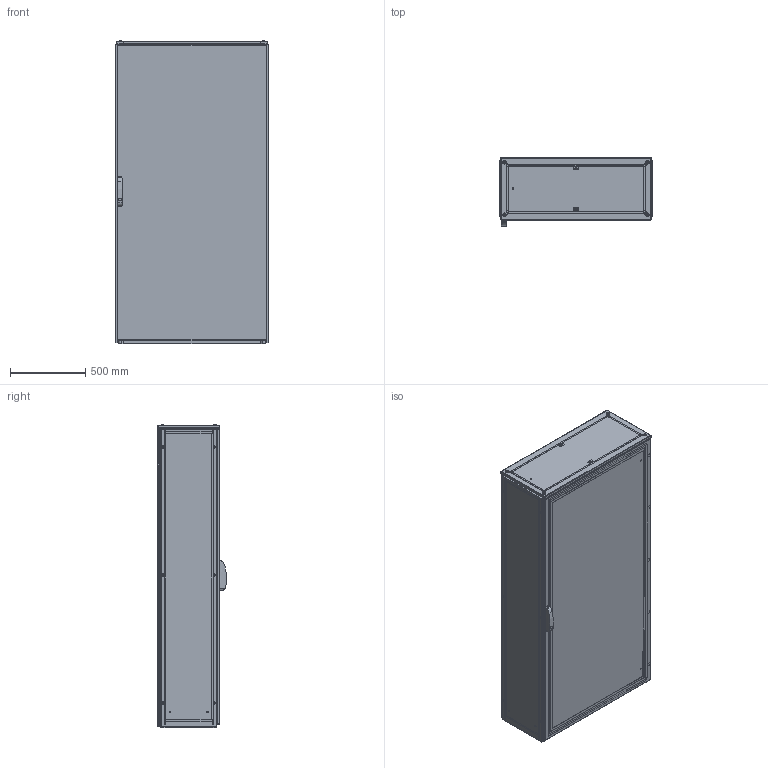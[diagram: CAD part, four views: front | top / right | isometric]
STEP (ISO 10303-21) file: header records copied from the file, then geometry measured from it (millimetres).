
FILE_DESCRIPTION(/* description */ ('STEP AP214'),/* implementation_level */ '2;1');
FILE_NAME(/* name */ 'ENUX102004PR-LOD350',/* time_stamp */ '2025-10-03T14:35:34+02:00',/* author */ ('License CC BY-ND 4.0'),/* organization */ ('CADENAS'),/* preprocessor_version */ 'ST-DEVELOPER v19.3',/* originating_system */ 'PARTsolutions',/* authorisation */ ' ');
FILE_SCHEMA (('AUTOMOTIVE_DESIGN {1 0 10303 214 3 1 1}'));
Length unit declared in the file: millimetre
Products named in the file (11): ENUX102004PR-LOD350; ENUX102004PR-LOD350_CON; ENUX102004PR-LOD350_floor1; ENUX102004PR-LOD350_floor2; Screw M12x30 architecture 350; ENUX102004PR-LOD350_side; ENUX102004PR-LOD350_top; ENUX102004PR-LOD350_back_door_r; ENUX102004PR-LOD350_back_door_l; ENUX102004PR-LOD350_door; ENUX102004PR-LOD350_handle
Assembly tree (18 placements, depth 2):
  ENUX102004PR-LOD350
    ENUX102004PR-LOD350_CON
    ENUX102004PR-LOD350_floor1  x4
    ENUX102004PR-LOD350_floor2  x2
    Screw M12x30 architecture 350  x4
    ENUX102004PR-LOD350_side  x2
    ENUX102004PR-LOD350_top
    ENUX102004PR-LOD350_back_door_r
    ENUX102004PR-LOD350_back_door_l
    ENUX102004PR-LOD350_door
    ENUX102004PR-LOD350_handle
Bounding box: 1012 x 457 x 2014.1 mm (x, y, z)
Volume: 22834760.3 mm3; surface area: 19314684.7 mm2
Topology: 18 solids, 18 shells, 2139 faces, 5968 edges, 3893 vertices
Faces by surface type: plane 1075, cylinder 864, cone 95, torus 88, sphere 17
Full cylindrical faces by diameter (mm): 4.5 x156, 6 x20, 6.8 x8, 7 x4, 9 x11, 12 x16, 13 x4, 14 x2, 17 x2, 18 x1, 21 x4, 28 x2
Entity records: 56537 total; most frequent: DIRECTION 9809, CARTESIAN_POINT 9755, ORIENTED_EDGE 9140, EDGE_CURVE 4570, AXIS2_PLACEMENT_3D 3519, VERTEX_POINT 3208, LINE 2771, VECTOR 2771
